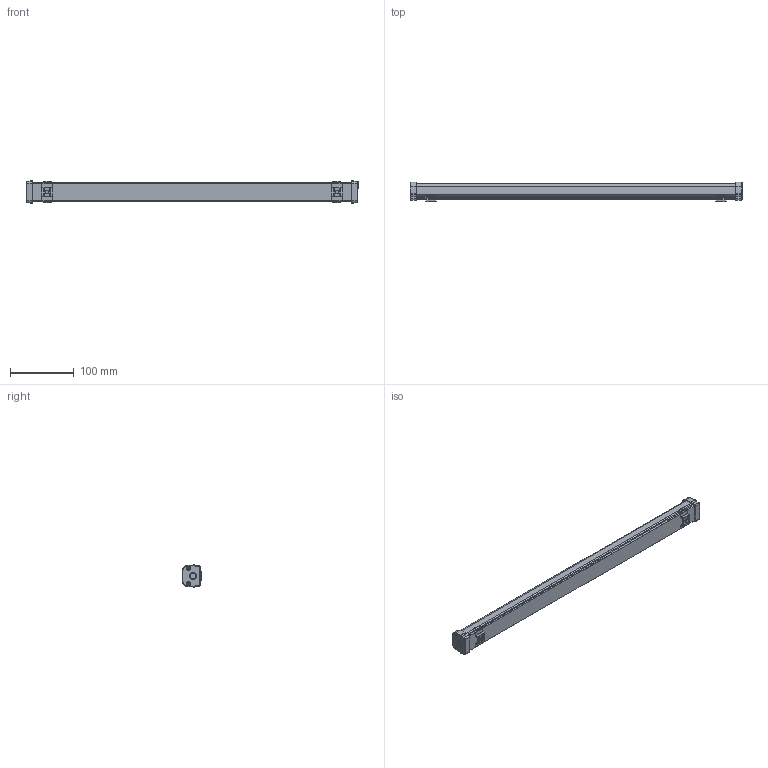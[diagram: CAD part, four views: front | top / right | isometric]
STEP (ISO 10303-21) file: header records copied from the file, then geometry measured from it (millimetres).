
FILE_DESCRIPTION (( 'STEP AP203' ), '1' );
FILE_NAME ('QKR572_3D00135 QEL-500 3D紫賊_220804.STEP', '2022-08-04T05:53:53', ( 'QKR_NOTE119' ), ( '' ), 'SwSTEP 2.0', 'SolidWorks 2019', '' );
FILE_SCHEMA (( 'CONFIG_CONTROL_DESIGN' ));
Length unit declared in the file: millimetre
Products named in the file (1): QKR572_3D00135 QEL-500 3D紫賊_220804
Bounding box: 520 x 30.75 x 34.6 mm (x, y, z)
Volume: 354489.5 mm3; surface area: 58610.8 mm2
Topology: 1 solids, 5 shells, 463 faces, 1233 edges, 784 vertices
Faces by surface type: plane 176, cylinder 129, cone 64, torus 64, bspline 22, sphere 8
Entity records: 15476 total; most frequent: CARTESIAN_POINT 4047, ORIENTED_EDGE 2450, DIRECTION 2383, EDGE_CURVE 1225, AXIS2_PLACEMENT_3D 970, VERTEX_POINT 784, CIRCLE 528, EDGE_LOOP 499
